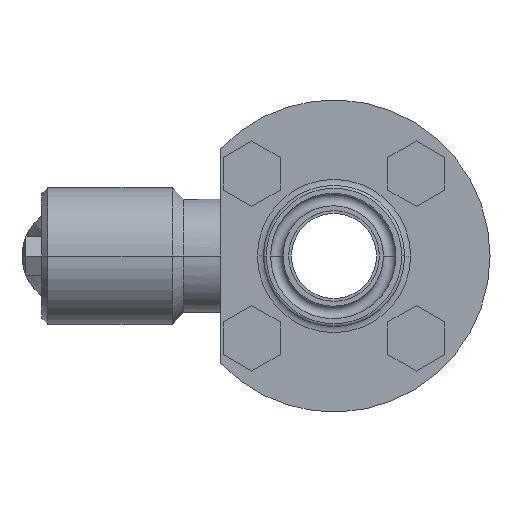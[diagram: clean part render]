
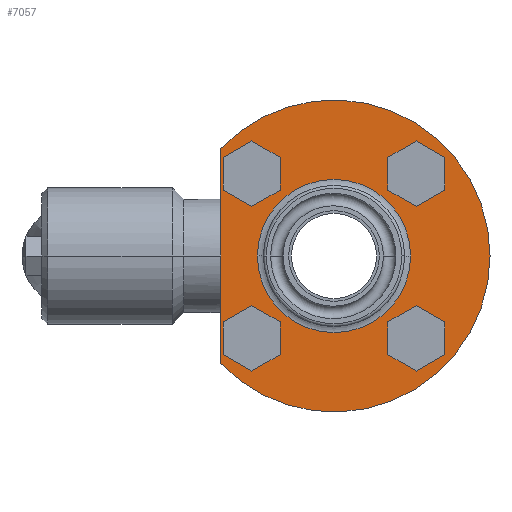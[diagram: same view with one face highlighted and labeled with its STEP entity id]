
A CAD part, left-side view. The second image highlights one B-rep face of the part: STEP entity #7057.
In plain terms, the highlighted planar face has unit normal (-1, 0, 0).
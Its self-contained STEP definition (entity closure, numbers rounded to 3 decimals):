
#388=DIRECTION('',(0.,0.,-1.));
#389=VECTOR('',#388,37.749);
#390=CARTESIAN_POINT('',(-19.,20.,18.875));
#391=LINE('',#390,#389);
#395=DIRECTION('',(0.,0.,-1.));
#396=VECTOR('',#395,5.774);
#397=CARTESIAN_POINT('',(-19.,9.5,-11.613));
#398=LINE('',#397,#396);
#402=DIRECTION('',(0.,-0.866,-0.5));
#403=VECTOR('',#402,5.774);
#404=CARTESIAN_POINT('',(-19.,14.5,-8.726));
#405=LINE('',#404,#403);
#409=DIRECTION('',(0.,-0.866,0.5));
#410=VECTOR('',#409,5.774);
#411=CARTESIAN_POINT('',(-19.,19.5,-11.613));
#412=LINE('',#411,#410);
#416=DIRECTION('',(0.,0.,1.));
#417=VECTOR('',#416,5.774);
#418=CARTESIAN_POINT('',(-19.,19.5,-17.387));
#419=LINE('',#418,#417);
#423=DIRECTION('',(0.,0.866,0.5));
#424=VECTOR('',#423,5.774);
#425=CARTESIAN_POINT('',(-19.,14.5,-20.274));
#426=LINE('',#425,#424);
#430=DIRECTION('',(0.,0.866,-0.5));
#431=VECTOR('',#430,5.774);
#432=CARTESIAN_POINT('',(-19.,9.5,-17.387));
#433=LINE('',#432,#431);
#437=DIRECTION('',(0.,0.,1.));
#438=VECTOR('',#437,5.774);
#439=CARTESIAN_POINT('',(-19.,9.5,11.613));
#440=LINE('',#439,#438);
#444=DIRECTION('',(0.,0.866,0.5));
#445=VECTOR('',#444,5.774);
#446=CARTESIAN_POINT('',(-19.,9.5,17.387));
#447=LINE('',#446,#445);
#451=DIRECTION('',(0.,0.866,-0.5));
#452=VECTOR('',#451,5.774);
#453=CARTESIAN_POINT('',(-19.,14.5,20.274));
#454=LINE('',#453,#452);
#458=DIRECTION('',(0.,0.,-1.));
#459=VECTOR('',#458,5.774);
#460=CARTESIAN_POINT('',(-19.,19.5,17.387));
#461=LINE('',#460,#459);
#465=DIRECTION('',(0.,-0.866,-0.5));
#466=VECTOR('',#465,5.774);
#467=CARTESIAN_POINT('',(-19.,19.5,11.613));
#468=LINE('',#467,#466);
#472=DIRECTION('',(0.,-0.866,0.5));
#473=VECTOR('',#472,5.774);
#474=CARTESIAN_POINT('',(-19.,14.5,8.726));
#475=LINE('',#474,#473);
#479=DIRECTION('',(0.,0.,-1.));
#480=VECTOR('',#479,5.774);
#481=CARTESIAN_POINT('',(-19.,-9.5,-11.613));
#482=LINE('',#481,#480);
#486=DIRECTION('',(0.,-0.866,-0.5));
#487=VECTOR('',#486,5.774);
#488=CARTESIAN_POINT('',(-19.,-9.5,-17.387));
#489=LINE('',#488,#487);
#493=DIRECTION('',(0.,-0.866,0.5));
#494=VECTOR('',#493,5.774);
#495=CARTESIAN_POINT('',(-19.,-14.5,-20.274));
#496=LINE('',#495,#494);
#500=DIRECTION('',(0.,0.,1.));
#501=VECTOR('',#500,5.774);
#502=CARTESIAN_POINT('',(-19.,-19.5,-17.387));
#503=LINE('',#502,#501);
#507=DIRECTION('',(0.,0.866,0.5));
#508=VECTOR('',#507,5.774);
#509=CARTESIAN_POINT('',(-19.,-19.5,-11.613));
#510=LINE('',#509,#508);
#514=DIRECTION('',(0.,0.866,-0.5));
#515=VECTOR('',#514,5.774);
#516=CARTESIAN_POINT('',(-19.,-14.5,-8.726));
#517=LINE('',#516,#515);
#521=DIRECTION('',(0.,0.,1.));
#522=VECTOR('',#521,5.774);
#523=CARTESIAN_POINT('',(-19.,-9.5,11.613));
#524=LINE('',#523,#522);
#528=DIRECTION('',(0.,0.866,0.5));
#529=VECTOR('',#528,5.774);
#530=CARTESIAN_POINT('',(-19.,-14.5,8.726));
#531=LINE('',#530,#529);
#535=DIRECTION('',(0.,0.866,-0.5));
#536=VECTOR('',#535,5.774);
#537=CARTESIAN_POINT('',(-19.,-19.5,11.613));
#538=LINE('',#537,#536);
#542=DIRECTION('',(0.,0.,-1.));
#543=VECTOR('',#542,5.774);
#544=CARTESIAN_POINT('',(-19.,-19.5,17.387));
#545=LINE('',#544,#543);
#549=DIRECTION('',(0.,-0.866,-0.5));
#550=VECTOR('',#549,5.774);
#551=CARTESIAN_POINT('',(-19.,-14.5,20.274));
#552=LINE('',#551,#550);
#556=DIRECTION('',(0.,-0.866,0.5));
#557=VECTOR('',#556,5.774);
#558=CARTESIAN_POINT('',(-19.,-9.5,17.387));
#559=LINE('',#558,#557);
#563=CARTESIAN_POINT('',(-19.,0.,0.));
#564=DIRECTION('',(-1.,0.,0.));
#565=DIRECTION('',(0.,1.,0.));
#566=AXIS2_PLACEMENT_3D('',#563,#564,#565);
#571=CARTESIAN_POINT('',(-19.,0.,0.));
#572=DIRECTION('',(-1.,0.,0.));
#573=DIRECTION('',(0.,-1.,0.));
#574=AXIS2_PLACEMENT_3D('',#571,#572,#573);
#594=CARTESIAN_POINT('',(-19.,0.,0.));
#595=DIRECTION('',(-1.,0.,0.));
#596=DIRECTION('',(0.,0.727,-0.686));
#597=AXIS2_PLACEMENT_3D('',#594,#595,#596);
#5927=CARTESIAN_POINT('',(-19.,20.,18.875));
#5928=CARTESIAN_POINT('',(-19.,20.,-18.875));
#5929=VERTEX_POINT('',#5927);
#5930=VERTEX_POINT('',#5928);
#6051=CARTESIAN_POINT('',(-19.,9.5,-11.613));
#6052=VERTEX_POINT('',#6051);
#6053=CARTESIAN_POINT('',(-19.,9.5,-17.387));
#6054=VERTEX_POINT('',#6053);
#6055=CARTESIAN_POINT('',(-19.,14.5,-20.274));
#6056=VERTEX_POINT('',#6055);
#6057=CARTESIAN_POINT('',(-19.,19.5,-17.387));
#6058=VERTEX_POINT('',#6057);
#6059=CARTESIAN_POINT('',(-19.,19.5,-11.613));
#6060=VERTEX_POINT('',#6059);
#6061=CARTESIAN_POINT('',(-19.,14.5,-8.726));
#6062=VERTEX_POINT('',#6061);
#6075=CARTESIAN_POINT('',(-19.,9.5,11.613));
#6076=VERTEX_POINT('',#6075);
#6077=CARTESIAN_POINT('',(-19.,9.5,17.387));
#6078=VERTEX_POINT('',#6077);
#6079=CARTESIAN_POINT('',(-19.,14.5,20.274));
#6080=VERTEX_POINT('',#6079);
#6081=CARTESIAN_POINT('',(-19.,19.5,17.387));
#6082=VERTEX_POINT('',#6081);
#6083=CARTESIAN_POINT('',(-19.,19.5,11.613));
#6084=VERTEX_POINT('',#6083);
#6085=CARTESIAN_POINT('',(-19.,14.5,8.726));
#6086=VERTEX_POINT('',#6085);
#6099=CARTESIAN_POINT('',(-19.,-9.5,-11.613));
#6100=VERTEX_POINT('',#6099);
#6101=CARTESIAN_POINT('',(-19.,-9.5,-17.387));
#6102=VERTEX_POINT('',#6101);
#6103=CARTESIAN_POINT('',(-19.,-14.5,-20.274));
#6104=VERTEX_POINT('',#6103);
#6105=CARTESIAN_POINT('',(-19.,-19.5,-17.387));
#6106=VERTEX_POINT('',#6105);
#6107=CARTESIAN_POINT('',(-19.,-19.5,-11.613));
#6108=VERTEX_POINT('',#6107);
#6109=CARTESIAN_POINT('',(-19.,-14.5,-8.726));
#6110=VERTEX_POINT('',#6109);
#6123=CARTESIAN_POINT('',(-19.,-9.5,11.613));
#6124=VERTEX_POINT('',#6123);
#6125=CARTESIAN_POINT('',(-19.,-9.5,17.387));
#6126=VERTEX_POINT('',#6125);
#6127=CARTESIAN_POINT('',(-19.,-14.5,20.274));
#6128=VERTEX_POINT('',#6127);
#6129=CARTESIAN_POINT('',(-19.,-19.5,17.387));
#6130=VERTEX_POINT('',#6129);
#6131=CARTESIAN_POINT('',(-19.,-19.5,11.613));
#6132=VERTEX_POINT('',#6131);
#6133=CARTESIAN_POINT('',(-19.,-14.5,8.726));
#6134=VERTEX_POINT('',#6133);
#6199=CARTESIAN_POINT('',(-19.,13.5,0.));
#6200=CARTESIAN_POINT('',(-19.,-13.5,0.));
#6201=VERTEX_POINT('',#6199);
#6202=VERTEX_POINT('',#6200);
#6985=CARTESIAN_POINT('',(-19.,0.,0.));
#6986=DIRECTION('',(1.,0.,0.));
#6987=DIRECTION('',(0.,-1.,0.));
#6988=AXIS2_PLACEMENT_3D('',#6985,#6986,#6987);
#6989=PLANE('',#6988);
#6991=ORIENTED_EDGE('',*,*,#6990,.F.);
#6993=ORIENTED_EDGE('',*,*,#6992,.F.);
#6994=EDGE_LOOP('',(#6991,#6993));
#6995=FACE_OUTER_BOUND('',#6994,.F.);
#6997=ORIENTED_EDGE('',*,*,#6996,.F.);
#6999=ORIENTED_EDGE('',*,*,#6998,.F.);
#7001=ORIENTED_EDGE('',*,*,#7000,.F.);
#7003=ORIENTED_EDGE('',*,*,#7002,.F.);
#7005=ORIENTED_EDGE('',*,*,#7004,.F.);
#7007=ORIENTED_EDGE('',*,*,#7006,.F.);
#7008=EDGE_LOOP('',(#6997,#6999,#7001,#7003,#7005,#7007));
#7009=FACE_BOUND('',#7008,.F.);
#7011=ORIENTED_EDGE('',*,*,#7010,.T.);
#7013=ORIENTED_EDGE('',*,*,#7012,.T.);
#7015=ORIENTED_EDGE('',*,*,#7014,.T.);
#7017=ORIENTED_EDGE('',*,*,#7016,.T.);
#7019=ORIENTED_EDGE('',*,*,#7018,.T.);
#7021=ORIENTED_EDGE('',*,*,#7020,.T.);
#7022=EDGE_LOOP('',(#7011,#7013,#7015,#7017,#7019,#7021));
#7023=FACE_BOUND('',#7022,.F.);
#7025=ORIENTED_EDGE('',*,*,#7024,.T.);
#7027=ORIENTED_EDGE('',*,*,#7026,.T.);
#7029=ORIENTED_EDGE('',*,*,#7028,.T.);
#7031=ORIENTED_EDGE('',*,*,#7030,.T.);
#7033=ORIENTED_EDGE('',*,*,#7032,.T.);
#7035=ORIENTED_EDGE('',*,*,#7034,.T.);
#7036=EDGE_LOOP('',(#7025,#7027,#7029,#7031,#7033,#7035));
#7037=FACE_BOUND('',#7036,.F.);
#7039=ORIENTED_EDGE('',*,*,#7038,.F.);
#7041=ORIENTED_EDGE('',*,*,#7040,.F.);
#7043=ORIENTED_EDGE('',*,*,#7042,.F.);
#7045=ORIENTED_EDGE('',*,*,#7044,.F.);
#7047=ORIENTED_EDGE('',*,*,#7046,.F.);
#7049=ORIENTED_EDGE('',*,*,#7048,.F.);
#7050=EDGE_LOOP('',(#7039,#7041,#7043,#7045,#7047,#7049));
#7051=FACE_BOUND('',#7050,.F.);
#7052=ORIENTED_EDGE('',*,*,#6975,.T.);
#7054=ORIENTED_EDGE('',*,*,#7053,.T.);
#7055=EDGE_LOOP('',(#7052,#7054));
#7056=FACE_BOUND('',#7055,.F.);
#7057=ADVANCED_FACE('',(#6995,#7009,#7023,#7037,#7051,#7056),#6989,.F.);
#567=CIRCLE('',#566,13.5);
#575=CIRCLE('',#574,13.5);
#598=CIRCLE('',#597,27.5);
#6975=EDGE_CURVE('',#6201,#6202,#567,.T.);
#6990=EDGE_CURVE('',#5929,#5930,#391,.T.);
#6992=EDGE_CURVE('',#5930,#5929,#598,.T.);
#6996=EDGE_CURVE('',#6052,#6054,#398,.T.);
#6998=EDGE_CURVE('',#6062,#6052,#405,.T.);
#7000=EDGE_CURVE('',#6060,#6062,#412,.T.);
#7002=EDGE_CURVE('',#6058,#6060,#419,.T.);
#7004=EDGE_CURVE('',#6056,#6058,#426,.T.);
#7006=EDGE_CURVE('',#6054,#6056,#433,.T.);
#7010=EDGE_CURVE('',#6076,#6078,#440,.T.);
#7012=EDGE_CURVE('',#6078,#6080,#447,.T.);
#7014=EDGE_CURVE('',#6080,#6082,#454,.T.);
#7016=EDGE_CURVE('',#6082,#6084,#461,.T.);
#7018=EDGE_CURVE('',#6084,#6086,#468,.T.);
#7020=EDGE_CURVE('',#6086,#6076,#475,.T.);
#7024=EDGE_CURVE('',#6100,#6102,#482,.T.);
#7026=EDGE_CURVE('',#6102,#6104,#489,.T.);
#7028=EDGE_CURVE('',#6104,#6106,#496,.T.);
#7030=EDGE_CURVE('',#6106,#6108,#503,.T.);
#7032=EDGE_CURVE('',#6108,#6110,#510,.T.);
#7034=EDGE_CURVE('',#6110,#6100,#517,.T.);
#7038=EDGE_CURVE('',#6124,#6126,#524,.T.);
#7040=EDGE_CURVE('',#6134,#6124,#531,.T.);
#7042=EDGE_CURVE('',#6132,#6134,#538,.T.);
#7044=EDGE_CURVE('',#6130,#6132,#545,.T.);
#7046=EDGE_CURVE('',#6128,#6130,#552,.T.);
#7048=EDGE_CURVE('',#6126,#6128,#559,.T.);
#7053=EDGE_CURVE('',#6202,#6201,#575,.T.);
